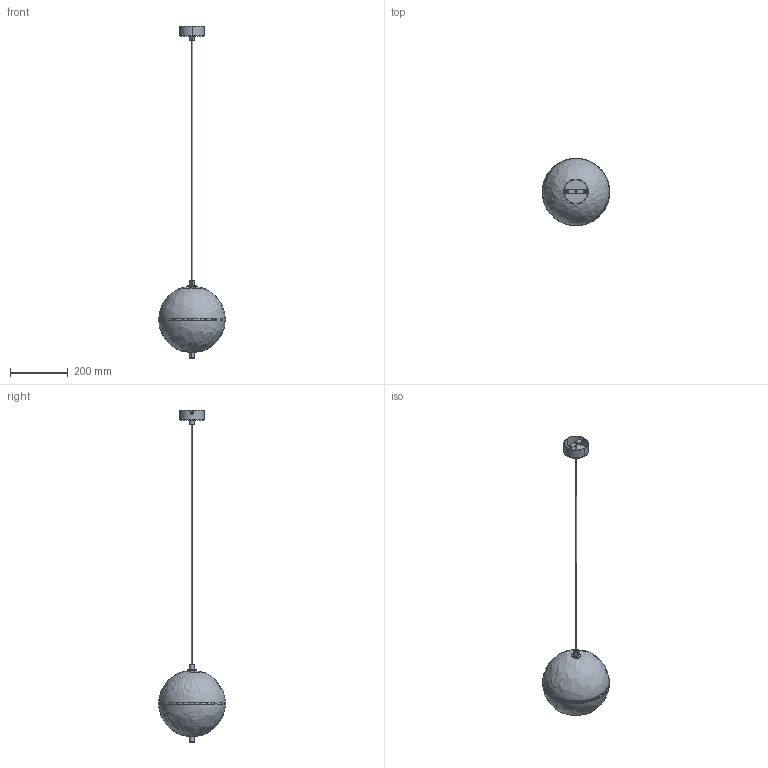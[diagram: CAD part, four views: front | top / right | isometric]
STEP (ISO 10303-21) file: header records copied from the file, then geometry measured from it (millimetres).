
FILE_DESCRIPTION(/* description */ (''),/* implementation_level */ '2;1');
FILE_NAME(/* name */ '29916_3d',/* time_stamp */ '2026-02-13T10:24:11+01:00',/* author */ (''),/* organization */ (''),/* preprocessor_version */ 'ST-DEVELOPER v19.2',/* originating_system */ 'Rhino 8.23',/* authorisation */ '');
FILE_SCHEMA (('CONFIG_CONTROL_DESIGN'));
Length unit declared in the file: millimetre
Products named in the file (2): Document; DOME S
Bounding box: 234.4 x 234.4 x 1151.45 mm (x, y, z)
Volume: 50167952.7 mm3; surface area: 1449490 mm2
Topology: 8 solids, 362 shells, 375 faces, 1449 edges, 1406 vertices
Faces by surface type: cylinder 147, bspline 140, plane 88
Entity records: 22415 total; most frequent: CARTESIAN_POINT 11221, DIRECTION 1651, ORIENTED_EDGE 1440, EDGE_CURVE 1411, VERTEX_POINT 1406, AXIS2_PLACEMENT_3D 943, CIRCLE 703, B_SPLINE_CURVE_WITH_KNOTS 662
